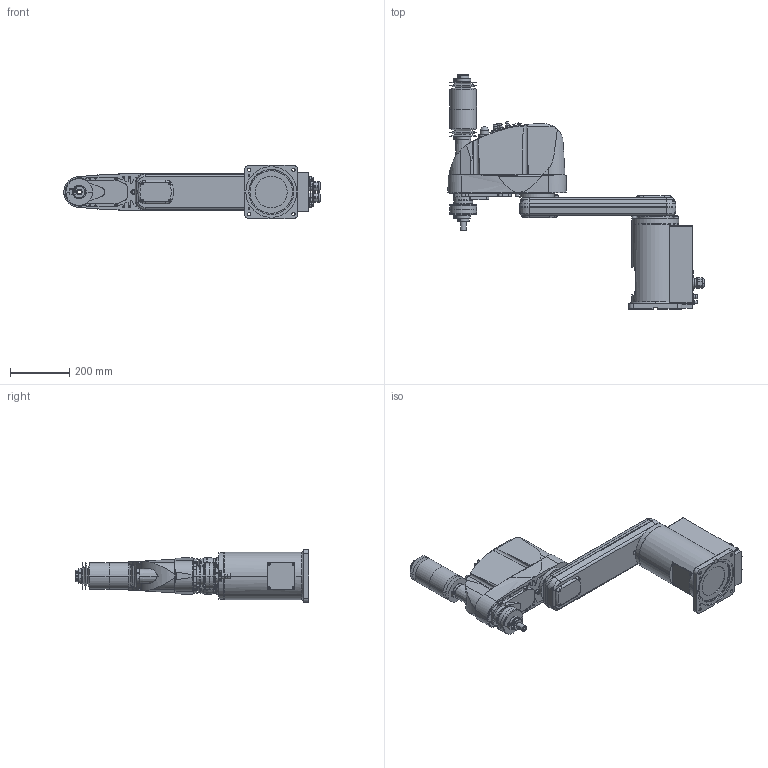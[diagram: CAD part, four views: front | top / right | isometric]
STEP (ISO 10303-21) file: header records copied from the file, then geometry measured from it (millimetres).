
FILE_DESCRIPTION( ( '' ), '1' );
FILE_NAME( '//expscmdclustefs.cadenas.external/client_exchange/iodir/jobs/output/wkb51543019_no0/STEP/G6_651C_2_03.stp', '2012-11-23T11:43:49', ( '' ), ( '' ), ' ', ' ', ' ' );
FILE_SCHEMA( ( 'CONFIG_CONTROL_DESIGN' ) );
Length unit declared in the file: millimetre
Products named in the file (8): 1; 2; 3; 4; 5; 6; 7; 8
Bounding box: 867.5 x 792 x 180 mm (x, y, z)
Volume: 21891905.5 mm3; surface area: 1118541.8 mm2
Topology: 8 solids, 8 shells, 1767 faces, 4309 edges, 2762 vertices
Faces by surface type: plane 892, cylinder 583, cone 224, torus 67, sphere 1
Entity records: 55034 total; most frequent: CARTESIAN_POINT 12067, DIRECTION 9244, ORIENTED_EDGE 8566, EDGE_CURVE 4283, AXIS2_PLACEMENT_3D 3367, VERTEX_POINT 2762, LINE 2510, VECTOR 2510
